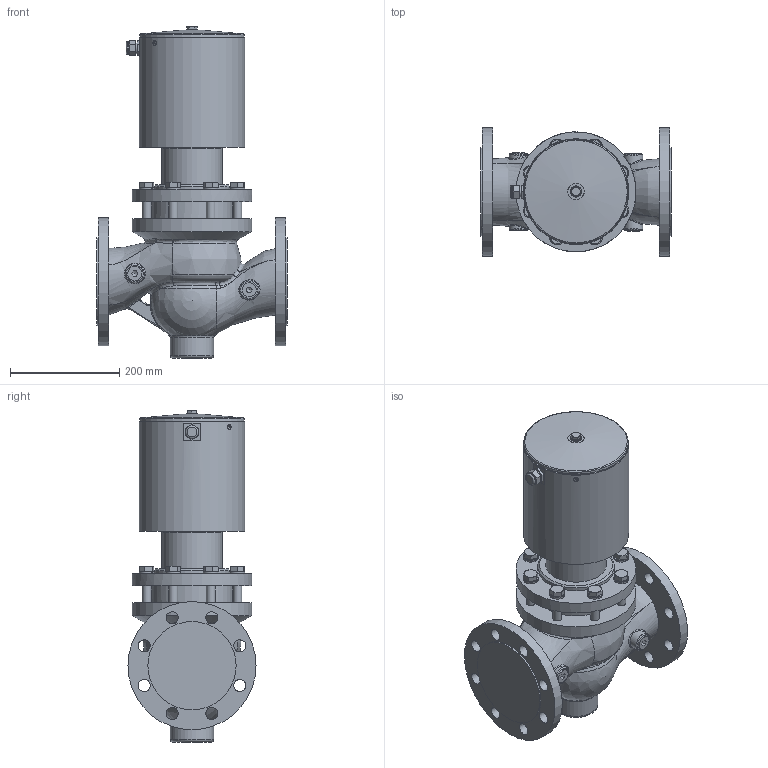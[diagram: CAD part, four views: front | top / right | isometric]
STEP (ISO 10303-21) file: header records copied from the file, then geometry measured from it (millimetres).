
FILE_DESCRIPTION((''),'2;1');
FILE_NAME('G:\CAD-Download\EVSA\4und10-EVSA\DN 100\4-EVSA 100H-4.Av.02.32.stp','2009-11-11T14:58:36',('hb'),(''),'Autodesk Inventor 2008','Autodesk Inventor 2008','');
FILE_SCHEMA(('AUTOMOTIVE_DESIGN { 1 0 10303 214 1 1 1 1 }'));
Length unit declared in the file: millimetre
Products named in the file (1): 4-EVSA 100H-4.Av.02
Bounding box: 350 x 235 x 608.97 mm (x, y, z)
Volume: 16750701.8 mm3; surface area: 720329.5 mm2
Topology: 1 solids, 1 shells, 415 faces, 1020 edges, 639 vertices
Faces by surface type: plane 176, bspline 90, cylinder 70, cone 66, torus 12, sphere 1
Full cylindrical faces by diameter (mm): 14.63 x1, 16 x16, 20 x1, 22.49 x8, 23.713 x1, 26 x4, 35 x2, 80 x1, 93 x1, 111 x1, 140 x1, 150 x1, 162 x2, 189 x1, 193.7 x1, 220 x2, 235 x2
Entity records: 23148 total; most frequent: CARTESIAN_POINT 14377, ORIENTED_EDGE 1726, DIRECTION 1598, EDGE_CURVE 863, AXIS2_PLACEMENT_3D 669, EDGE_LOOP 613, VERTEX_POINT 582, FACE_OUTER_BOUND 415
